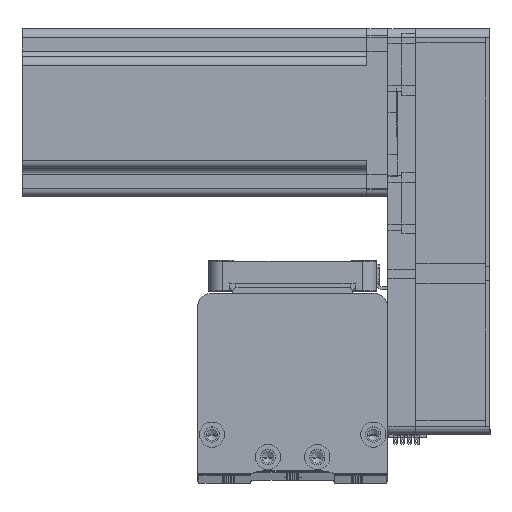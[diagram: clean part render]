
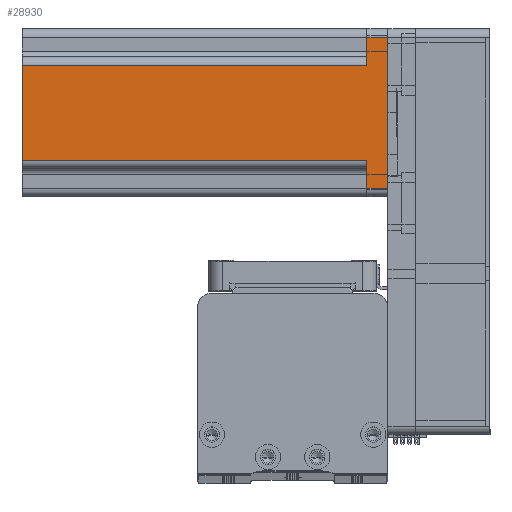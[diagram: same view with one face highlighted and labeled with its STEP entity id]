
A CAD part, top view. The second image highlights one B-rep face of the part: STEP entity #28930.
In plain terms, the highlighted planar face has unit normal (0, 0, 1) as drawn and (0, -1, 0) by its records, which use the part's own axes.
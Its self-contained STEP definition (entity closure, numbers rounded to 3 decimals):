
#195 = CARTESIAN_POINT ( 'NONE',  ( 17., -30., 130.7 ) ) ;
#1057 = ORIENTED_EDGE ( 'NONE', *, *, #49552, .F. ) ;
#2841 = CARTESIAN_POINT ( 'NONE',  ( -27., -30., 0. ) ) ;
#3103 = EDGE_CURVE ( 'NONE', #51785, #16838, #20489, .T. ) ;
#4359 = EDGE_CURVE ( 'NONE', #38526, #53359, #9138, .T. ) ;
#4475 = CARTESIAN_POINT ( 'NONE',  ( -17., -30., 130.7 ) ) ;
#4535 = CARTESIAN_POINT ( 'NONE',  ( 30., -30., 0. ) ) ;
#4962 = ORIENTED_EDGE ( 'NONE', *, *, #3103, .T. ) ;
#5459 = VECTOR ( 'NONE', #15802, 1000. ) ;
#5482 = DIRECTION ( 'NONE',  ( 0., 0., -1. ) ) ;
#6117 = ORIENTED_EDGE ( 'NONE', *, *, #37197, .T. ) ;
#6491 = CARTESIAN_POINT ( 'NONE',  ( 30., -30., 130.7 ) ) ;
#6700 = LINE ( 'NONE', #6491, #27523 ) ;
#6770 = LINE ( 'NONE', #40736, #5459 ) ;
#8512 = DIRECTION ( 'NONE',  ( 1., 0., 0. ) ) ;
#9138 = LINE ( 'NONE', #4535, #29979 ) ;
#9168 = CARTESIAN_POINT ( 'NONE',  ( 30., -30., 130.7 ) ) ;
#9246 = ORIENTED_EDGE ( 'NONE', *, *, #47532, .T. ) ;
#10099 = VECTOR ( 'NONE', #40979, 1000. ) ;
#10874 = EDGE_CURVE ( 'NONE', #16146, #25528, #40085, .T. ) ;
#11721 = FACE_OUTER_BOUND ( 'NONE', #40934, .T. ) ;
#12986 = DIRECTION ( 'NONE',  ( 0., 0., -1. ) ) ;
#13343 = DIRECTION ( 'NONE',  ( -1., 0., 0. ) ) ;
#14241 = VECTOR ( 'NONE', #5482, 1000. ) ;
#14899 = CARTESIAN_POINT ( 'NONE',  ( -17., -30., 7.5 ) ) ;
#15802 = DIRECTION ( 'NONE',  ( 1., 0., 0. ) ) ;
#16046 = CARTESIAN_POINT ( 'NONE',  ( 17., -30., 130.7 ) ) ;
#16146 = VERTEX_POINT ( 'NONE', #47547 ) ;
#16838 = VERTEX_POINT ( 'NONE', #14899 ) ;
#17063 = VERTEX_POINT ( 'NONE', #195 ) ;
#17233 = CARTESIAN_POINT ( 'NONE',  ( -17., -30., 130.7 ) ) ;
#17648 = CARTESIAN_POINT ( 'NONE',  ( -27., -30., 130.7 ) ) ;
#20267 = ORIENTED_EDGE ( 'NONE', *, *, #10874, .T. ) ;
#20489 = LINE ( 'NONE', #4475, #52381 ) ;
#21432 = CARTESIAN_POINT ( 'NONE',  ( 20., -30., 7.5 ) ) ;
#21680 = DIRECTION ( 'NONE',  ( 0., 0., 1. ) ) ;
#25528 = VERTEX_POINT ( 'NONE', #27554 ) ;
#27225 = DIRECTION ( 'NONE',  ( 1., 0., 0. ) ) ;
#27523 = VECTOR ( 'NONE', #27225, 1000. ) ;
#27554 = CARTESIAN_POINT ( 'NONE',  ( 17., -30., 7.5 ) ) ;
#28930 = ADVANCED_FACE ( 'NONE', ( #11721 ), #33948, .F. ) ;
#28990 = VECTOR ( 'NONE', #50533, 1000. ) ;
#29804 = ORIENTED_EDGE ( 'NONE', *, *, #32262, .F. ) ;
#29979 = VECTOR ( 'NONE', #8512, 1000. ) ;
#32262 = EDGE_CURVE ( 'NONE', #51785, #17063, #6700, .T. ) ;
#33307 = CARTESIAN_POINT ( 'NONE',  ( 27., -30., 0. ) ) ;
#33948 = PLANE ( 'NONE',  #36898 ) ;
#36898 = AXIS2_PLACEMENT_3D ( 'NONE', #9168, #38301, #13343 ) ;
#37197 = EDGE_CURVE ( 'NONE', #53359, #16146, #39013, .T. ) ;
#38278 = CARTESIAN_POINT ( 'NONE',  ( -27., -30., 7.5 ) ) ;
#38301 = DIRECTION ( 'NONE',  ( 0., 1., 0. ) ) ;
#38526 = VERTEX_POINT ( 'NONE', #2841 ) ;
#38574 = EDGE_CURVE ( 'NONE', #25528, #17063, #43308, .T. ) ;
#39013 = LINE ( 'NONE', #46588, #48780 ) ;
#40085 = LINE ( 'NONE', #21432, #28990 ) ;
#40736 = CARTESIAN_POINT ( 'NONE',  ( -20., -30., 7.5 ) ) ;
#40934 = EDGE_LOOP ( 'NONE', ( #29804, #4962, #1057, #9246, #50629, #6117, #20267, #43296 ) ) ;
#40979 = DIRECTION ( 'NONE',  ( 0., 0., 1. ) ) ;
#43296 = ORIENTED_EDGE ( 'NONE', *, *, #38574, .T. ) ;
#43308 = LINE ( 'NONE', #16046, #10099 ) ;
#46588 = CARTESIAN_POINT ( 'NONE',  ( 27., -30., 130.7 ) ) ;
#46589 = VERTEX_POINT ( 'NONE', #38278 ) ;
#47532 = EDGE_CURVE ( 'NONE', #46589, #38526, #48778, .T. ) ;
#47547 = CARTESIAN_POINT ( 'NONE',  ( 27., -30., 7.5 ) ) ;
#48778 = LINE ( 'NONE', #17648, #14241 ) ;
#48780 = VECTOR ( 'NONE', #21680, 1000. ) ;
#49552 = EDGE_CURVE ( 'NONE', #46589, #16838, #6770, .T. ) ;
#50533 = DIRECTION ( 'NONE',  ( -1., 0., 0. ) ) ;
#50629 = ORIENTED_EDGE ( 'NONE', *, *, #4359, .T. ) ;
#51785 = VERTEX_POINT ( 'NONE', #17233 ) ;
#52381 = VECTOR ( 'NONE', #12986, 1000. ) ;
#53359 = VERTEX_POINT ( 'NONE', #33307 ) ;
